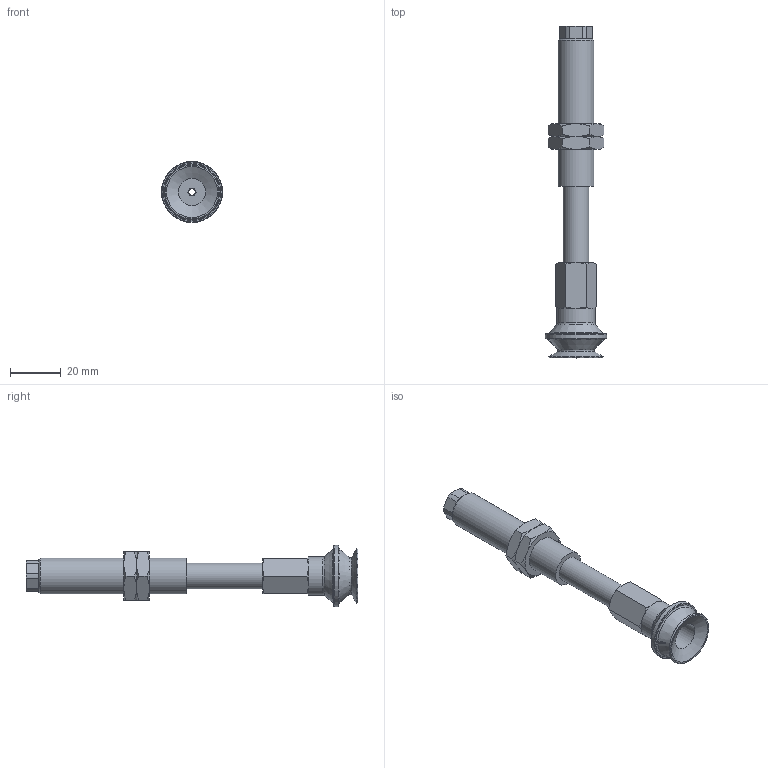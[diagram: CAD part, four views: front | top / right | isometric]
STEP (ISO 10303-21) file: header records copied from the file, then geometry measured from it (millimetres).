
FILE_DESCRIPTION(('STEP AP203'),'1');
FILE_NAME('.stp','2025-08-27T01:16:17',(' '),(' '),'Spatial InterOp 3D',' ',' ');
FILE_SCHEMA(('CONFIG_CONTROL_DESIGN'));
Length unit declared in the file: millimetre
Products named in the file (7): BNABPBTS-20-30-※; ADAPTER; NAPBTS-20-30--M; Adapter20-T-NAPB; Nut-20-S-PB; NAPBTS-20-30--F; BPBG-20-※
Assembly tree (7 placements, depth 2):
  BNABPBTS-20-30-※
    ADAPTER
    NAPBTS-20-30--M
    Adapter20-T-NAPB
    Nut-20-S-PB  x2
    NAPBTS-20-30--F
    BPBG-20-※
Bounding box: 24 x 130.5 x 24 mm (x, y, z)
Volume: 19360.3 mm3; surface area: 14679.6 mm2
Topology: 7 solids, 7 shells, 139 faces, 302 edges, 184 vertices
Faces by surface type: plane 57, cone 51, cylinder 22, torus 9
Full cylindrical faces by diameter (mm): 2.5 x1, 3 x2, 4.134 x2, 4.6 x1, 5 x1, 10 x2, 10.8 x1, 11 x1, 12.917 x2, 14 x1, 15 x1, 24 x1
Entity records: 3526 total; most frequent: CARTESIAN_POINT 818, DIRECTION 508, ORIENTED_EDGE 422, AXIS2_PLACEMENT_3D 221, EDGE_CURVE 211, EDGE_LOOP 168, VERTEX_POINT 147, FACE_OUTER_BOUND 138
